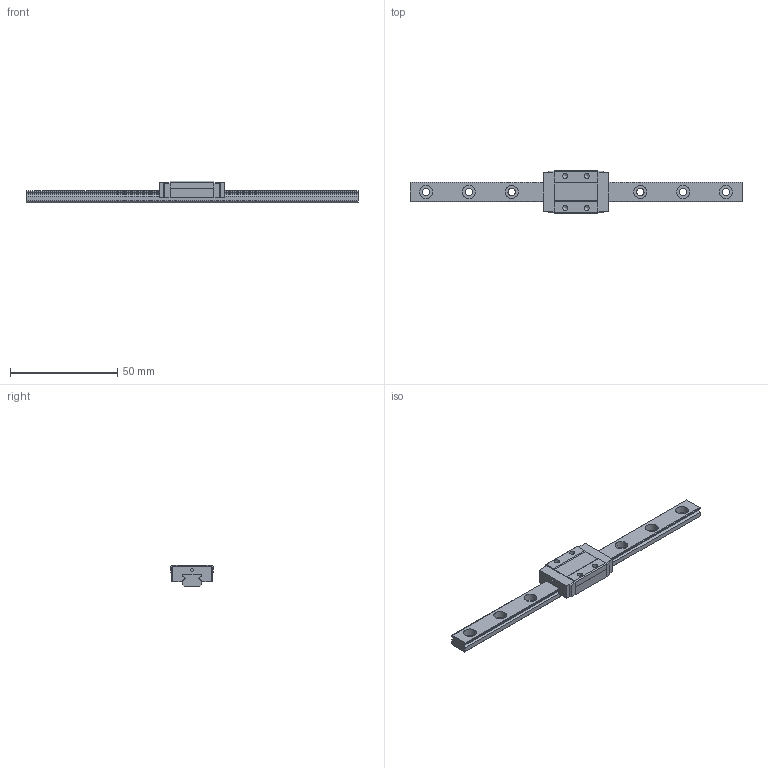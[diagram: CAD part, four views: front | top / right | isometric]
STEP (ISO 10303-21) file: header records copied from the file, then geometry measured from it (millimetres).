
FILE_DESCRIPTION((''),'2;1');
FILE_NAME('C:\Documents and Settings\土屋\My Documents\土屋移動用フォルダ\製品 (図面)\カタログ用3D\リニアガイド\EGM\EGM9.stp','2015-02-21T13:06:19',('y'),(''),'Autodesk Inventor 11','Autodesk Inventor 11','');
FILE_SCHEMA(('AUTOMOTIVE_DESIGN { 1 0 10303 214 1 1 1 1 }'));
Length unit declared in the file: millimetre
Products named in the file (3): EGM9; EGM9レール; EGM9ベアリング
Assembly tree (2 placements, depth 2):
  EGM9
    EGM9レール
    EGM9ベアリング
Bounding box: 155 x 20 x 10 mm (x, y, z)
Volume: 9690.9 mm3; surface area: 7737.9 mm2
Topology: 2 solids, 2 shells, 108 faces, 282 edges, 188 vertices
Faces by surface type: plane 54, bspline 34, cylinder 20
Full cylindrical faces by diameter (mm): 1.3 x1
Entity records: 3559 total; most frequent: CARTESIAN_POINT 993, ORIENTED_EDGE 496, DIRECTION 488, EDGE_CURVE 248, VERTEX_POINT 180, VECTOR 166, LINE 166, AXIS2_PLACEMENT_3D 161
